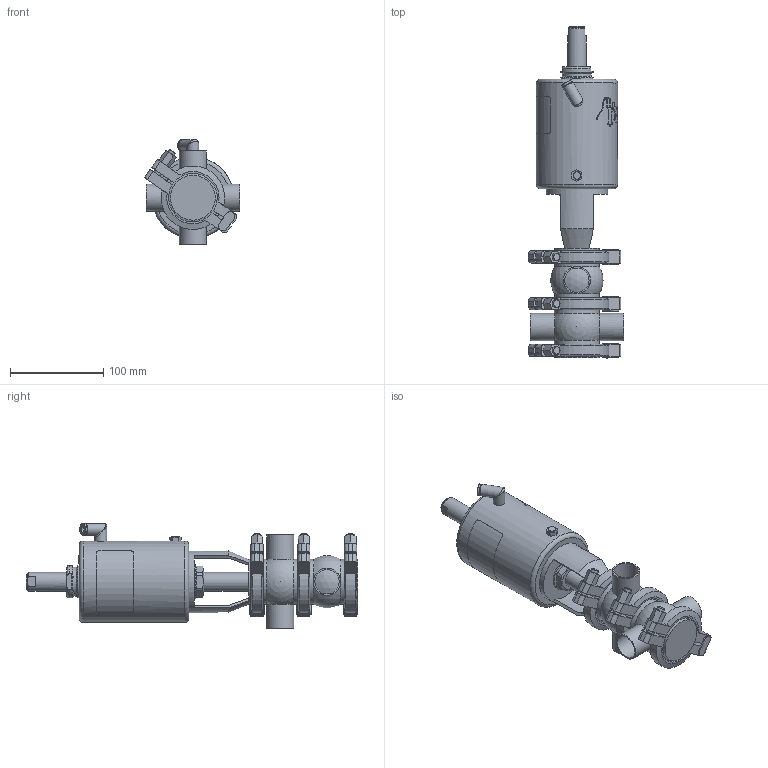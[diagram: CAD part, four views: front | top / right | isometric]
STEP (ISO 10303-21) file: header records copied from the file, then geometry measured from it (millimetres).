
FILE_DESCRIPTION (( 'STEP AP214' ), '1' );
FILE_NAME ('INNOVA M C W DIN 025 T1 AS NC_10.241.16.0007.STEP', '2024-08-07T12:39:13', ( '' ), ( '' ), 'SwSTEP 2.0', 'SolidWorks 2023', '' );
FILE_SCHEMA (( 'AUTOMOTIVE_DESIGN' ));
Length unit declared in the file: millimetre
Products named in the file (6): 10.240.15.0010_DN 025; 10.241.15.0001_DIN 025; 10.240.15.0001_DN 025; 10.240.15.0014_T1 AS P180; INNOVA M C W DIN 025 T1 AS NC_10.241.16.0007; 10.240.15.0007_DIN 025
Assembly tree (8 placements, depth 2):
  INNOVA M C W DIN 025 T1 AS NC_10.241.16.0007
    10.240.15.0007_DIN 025  x2
    10.240.15.0010_DN 025
    10.240.15.0014_T1 AS P180
    10.240.15.0001_DN 025  x3
    10.241.15.0001_DIN 025
Bounding box: 101.94 x 355.09 x 112.25 mm (x, y, z)
Volume: 1125578.5 mm3; surface area: 172001.4 mm2
Topology: 9 solids, 9 shells, 474 faces, 1263 edges, 822 vertices
Faces by surface type: plane 227, cylinder 115, bspline 80, cone 40, sphere 8, torus 4
Full cylindrical faces by diameter (mm): 6.15 x1, 8 x7, 8.5 x1, 10.5 x1, 12.5 x3, 16 x1, 20 x2, 26 x4, 29 x4, 31 x1, 34.5 x2, 36.5 x1, 48 x6, 59.7 x6, 66 x1, 87 x1
Entity records: 19602 total; most frequent: CARTESIAN_POINT 10245, ORIENTED_EDGE 1644, DIRECTION 1261, EDGE_CURVE 822, VERTEX_POINT 563, AXIS2_PLACEMENT_3D 482, EDGE_LOOP 409, FACE_OUTER_BOUND 372
